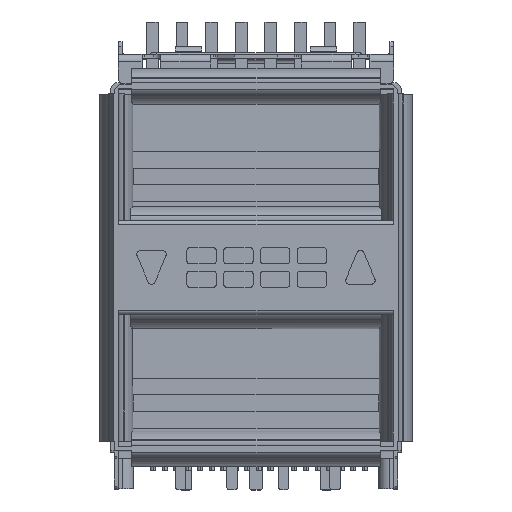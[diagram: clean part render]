
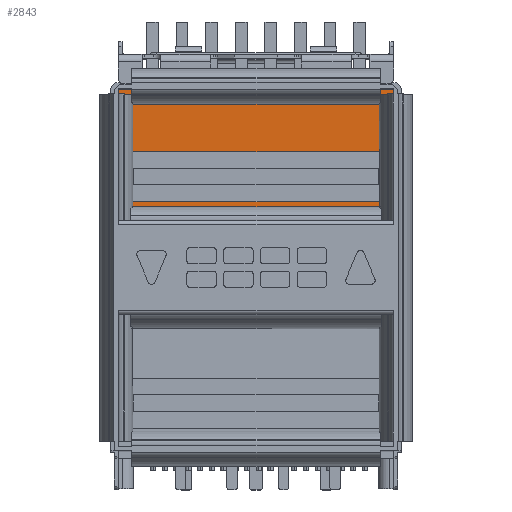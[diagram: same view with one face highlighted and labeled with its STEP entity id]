
A CAD part, top view. The second image highlights one B-rep face of the part: STEP entity #2843.
In plain terms, the highlighted planar face has unit normal (0, 0, 1).
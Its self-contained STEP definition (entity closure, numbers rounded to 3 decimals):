
#2843=ADVANCED_FACE('',(#3812,#3813),#3613,.F.);
#3613=PLANE('',#24186);
#3812=FACE_BOUND('',#5018,.T.);
#3813=FACE_BOUND('',#5019,.T.);
#5018=EDGE_LOOP('',(#14814,#14815,#14816,#14817,#14818,#14819));
#5019=EDGE_LOOP('',(#14820,#14821,#14822,#14823));
#7069=LINE('',#37043,#9225);
#7073=LINE('',#37051,#9229);
#7075=LINE('',#37055,#9231);
#7076=LINE('',#37057,#9232);
#7078=LINE('',#37063,#9234);
#7095=LINE('',#37140,#9251);
#7100=LINE('',#37147,#9256);
#7160=LINE('',#37264,#9316);
#9225=VECTOR('',#29939,1.);
#9229=VECTOR('',#29945,1.);
#9231=VECTOR('',#29949,1.);
#9232=VECTOR('',#29952,1.);
#9234=VECTOR('',#29958,1.);
#9251=VECTOR('',#30013,1.);
#9256=VECTOR('',#30022,1.);
#9316=VECTOR('',#30170,1.);
#14814=ORIENTED_EDGE('',*,*,#20862,.T.);
#14815=ORIENTED_EDGE('',*,*,#20825,.T.);
#14816=ORIENTED_EDGE('',*,*,#20857,.T.);
#14817=ORIENTED_EDGE('',*,*,#20929,.T.);
#14818=ORIENTED_EDGE('',*,*,#20930,.T.);
#14819=ORIENTED_EDGE('',*,*,#20931,.T.);
#14820=ORIENTED_EDGE('',*,*,#20822,.F.);
#14821=ORIENTED_EDGE('',*,*,#20821,.T.);
#14822=ORIENTED_EDGE('',*,*,#20819,.T.);
#14823=ORIENTED_EDGE('',*,*,#20815,.F.);
#17864=VERTEX_POINT('',#37044);
#17865=VERTEX_POINT('',#37045);
#17866=VERTEX_POINT('',#37050);
#17867=VERTEX_POINT('',#37054);
#17869=VERTEX_POINT('',#37062);
#17870=VERTEX_POINT('',#37064);
#17888=VERTEX_POINT('',#37139);
#17889=VERTEX_POINT('',#37148);
#17901=VERTEX_POINT('',#37261);
#17902=VERTEX_POINT('',#37265);
#20815=EDGE_CURVE('',#17864,#17865,#7069,.T.);
#20819=EDGE_CURVE('',#17866,#17865,#7073,.T.);
#20821=EDGE_CURVE('',#17867,#17866,#7075,.T.);
#20822=EDGE_CURVE('',#17867,#17864,#7076,.T.);
#20825=EDGE_CURVE('',#17870,#17869,#7078,.T.);
#20857=EDGE_CURVE('',#17869,#17888,#7095,.T.);
#20862=EDGE_CURVE('',#17889,#17870,#7100,.T.);
#20929=EDGE_CURVE('',#17888,#17901,#22176,.T.);
#20930=EDGE_CURVE('',#17901,#17902,#7160,.T.);
#20931=EDGE_CURVE('',#17902,#17889,#22177,.T.);
#22176=CIRCLE('',#24183,0.1);
#22177=CIRCLE('',#24185,0.1);
#24183=AXIS2_PLACEMENT_3D('',#37262,#30166,#30167);
#24185=AXIS2_PLACEMENT_3D('',#37266,#30171,#30172);
#24186=AXIS2_PLACEMENT_3D('',#37267,#30173,#30174);
#29939=DIRECTION('',(1.,0.,0.));
#29945=DIRECTION('',(0.,-1.,0.));
#29949=DIRECTION('',(1.,0.,0.));
#29952=DIRECTION('',(0.,-1.,0.));
#29958=DIRECTION('',(1.,0.,0.));
#30013=DIRECTION('',(0.,1.,0.));
#30022=DIRECTION('',(0.,-1.,0.));
#30166=DIRECTION('',(0.,0.,1.));
#30167=DIRECTION('',(-1.,0.,0.));
#30170=DIRECTION('',(-1.,0.,0.));
#30171=DIRECTION('',(0.,0.,1.));
#30172=DIRECTION('',(-1.,0.,0.));
#30173=DIRECTION('',(0.,0.,-1.));
#30174=DIRECTION('',(1.,0.,0.));
#37043=CARTESIAN_POINT('',(24.066,29.737,-51.52));
#37044=CARTESIAN_POINT('',(15.066,29.737,-51.52));
#37045=CARTESIAN_POINT('',(33.066,29.737,-51.52));
#37050=CARTESIAN_POINT('',(33.066,33.137,-51.52));
#37051=CARTESIAN_POINT('',(33.066,12.727,-51.52));
#37054=CARTESIAN_POINT('',(15.066,33.137,-51.52));
#37055=CARTESIAN_POINT('',(24.066,33.137,-51.52));
#37057=CARTESIAN_POINT('',(15.066,12.727,-51.52));
#37062=CARTESIAN_POINT('',(33.441,28.377,-51.52));
#37063=CARTESIAN_POINT('',(24.066,28.377,-51.52));
#37064=CARTESIAN_POINT('',(14.691,28.377,-51.52));
#37139=CARTESIAN_POINT('',(33.441,37.277,-51.52));
#37140=CARTESIAN_POINT('',(33.441,12.727,-51.52));
#37147=CARTESIAN_POINT('',(14.691,12.727,-51.52));
#37148=CARTESIAN_POINT('',(14.691,37.277,-51.52));
#37261=CARTESIAN_POINT('',(33.341,37.377,-51.52));
#37262=CARTESIAN_POINT('',(33.341,37.277,-51.52));
#37264=CARTESIAN_POINT('',(24.066,37.377,-51.52));
#37265=CARTESIAN_POINT('',(14.791,37.377,-51.52));
#37266=CARTESIAN_POINT('',(14.791,37.277,-51.52));
#37267=CARTESIAN_POINT('',(33.341,13.077,-51.52));
